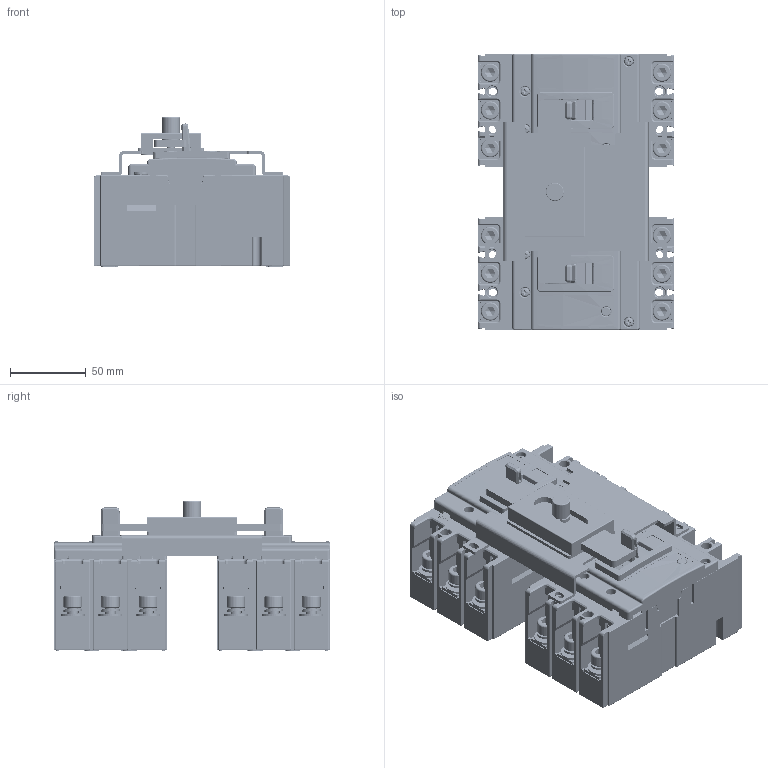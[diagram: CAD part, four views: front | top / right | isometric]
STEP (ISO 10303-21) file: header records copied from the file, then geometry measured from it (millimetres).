
FILE_DESCRIPTION(/* description */ (''),/* implementation_level */ '2;1');
FILE_NAME(/* name */ '125.stp',/* time_stamp */ '2025-10-24T17:27:49+08:00',/* author */ (''),/* organization */ (''),/* preprocessor_version */ 'ST-DEVELOPER v11',/* originating_system */ 'SIEMENS UGS NX 6.0',/* authorisation */ '');
FILE_SCHEMA (('CONFIG_CONTROL_DESIGN'));
Products named in the file (1): pcE8BAm4cs
Bounding box: 130 x 183 x 99 mm (x, y, z)
Volume: 501887.4 mm3; surface area: 440137.1 mm2
Topology: 105 solids, 107 shells, 12335 faces, 32738 edges, 21336 vertices
Faces by surface type: plane 8737, cylinder 2303, bspline 358, torus 355, extrusion 262, cone 194, sphere 126
Full cylindrical faces by diameter (mm): 2 x2, 2.5 x20, 2.659 x8, 3 x14, 3.3 x8, 3.5 x34, 3.7 x4, 4 x18, 4.2 x4, 4.48 x4, 4.5 x24, 4.6 x16, 5 x5, 5.4 x4, 5.5 x9, 5.6 x4, 5.85 x8, 5.9 x2, 6 x8, 6.05 x4, 6.2 x6, 6.4 x2, 6.5 x8, 6.6 x2, 7 x24, 7.5 x12, 8 x12, 8.3 x12, 9 x12, 9.1 x4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
Entity records: 393044 total; most frequent: CARTESIAN_POINT 90262, ORIENTED_EDGE 63754, DIRECTION 59366, EDGE_CURVE 31877, VECTOR 23844, LINE 23582, VERTEX_POINT 21127, AXIS2_PLACEMENT_3D 17761
